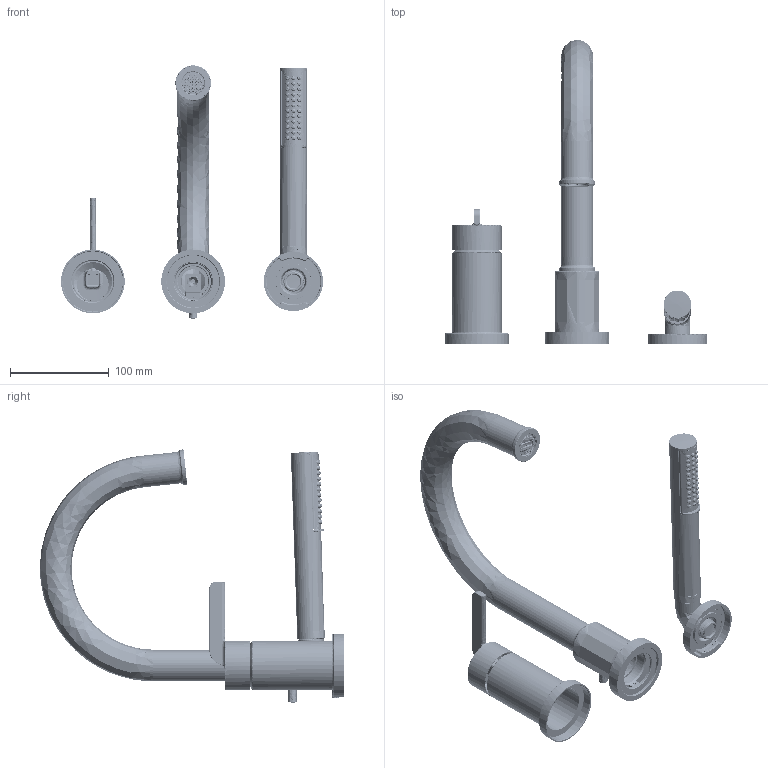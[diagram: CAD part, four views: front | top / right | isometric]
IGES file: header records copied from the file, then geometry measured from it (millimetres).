
Start section: SolidWorks IGES file using analytic representation for surfaces
Global section: file name: W:\mliu8\project\ADHOC-02291\sku_tau16series_igs\sku_tau16series_igs.IGS; native system: SolidWorks 2023; preprocessor: SolidWorks 2023; author: mliu8; date: 240726.115100; units: inch
Bounding box: 265.5 x 308.19 x 256.52 mm (x, y, z)
Surface area: 259627.4 mm2 (no closed solid volume)
Topology: 0 solids, 0 shells, 7237 faces, 73632 edges, 73600 vertices
Faces by surface type: bspline 5720, revolution 1517
